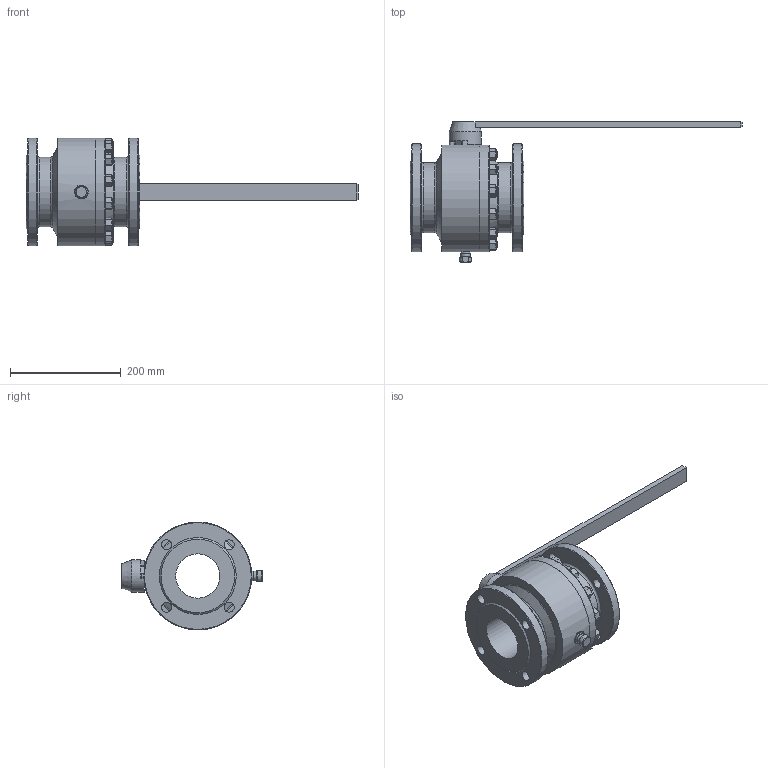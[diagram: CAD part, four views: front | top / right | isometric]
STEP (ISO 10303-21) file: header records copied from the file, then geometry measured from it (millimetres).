
FILE_DESCRIPTION(('STEP AP203'), '1');
FILE_NAME('ZARDP 080.016.21.P.stp', '2013-12-06T11:37:12', ('Øèøêî'), ('ÎÎÎ ÈÊ Ýíåðïðåä-ßðäîñ'), 'ASCON STEP Converter 1.3', 'Kompas 3D', '');
FILE_SCHEMA(('CONFIG_CONTROL_DESIGN','SUPPORT_RESOURCE_SCHEMA'));
Length unit declared in the file: millimetre
Products named in the file (1): 277
Bounding box: 600 x 254 x 195 mm (x, y, z)
Volume: 3442124.8 mm3; surface area: 403781.3 mm2
Topology: 1 solids, 18 shells, 427 faces, 919 edges, 579 vertices
Faces by surface type: plane 214, cone 110, cylinder 98, torus 5
Full cylindrical faces by diameter (mm): 6.647 x1, 8 x4, 9 x1, 12 x24, 13 x13, 17.33 x1, 18 x8, 23.4 x1, 25 x1, 27 x4, 27.1 x1, 29 x1, 36.4 x1, 37 x2, 58 x1, 80 x2, 126 x2, 140 x2, 154 x1, 195 x2
Entity records: 19099 total; most frequent: CARTESIAN_POINT 9753, DIRECTION 1939, ORIENTED_EDGE 1838, EDGE_CURVE 919, AXIS2_PLACEMENT_3D 790, VERTEX_POINT 579, EDGE_LOOP 516, ADVANCED_FACE 427
